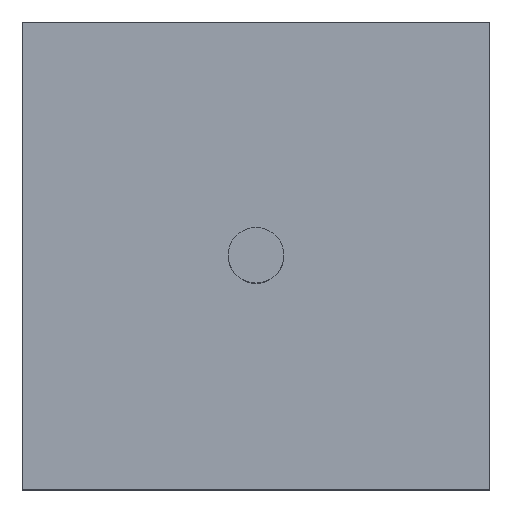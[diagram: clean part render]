
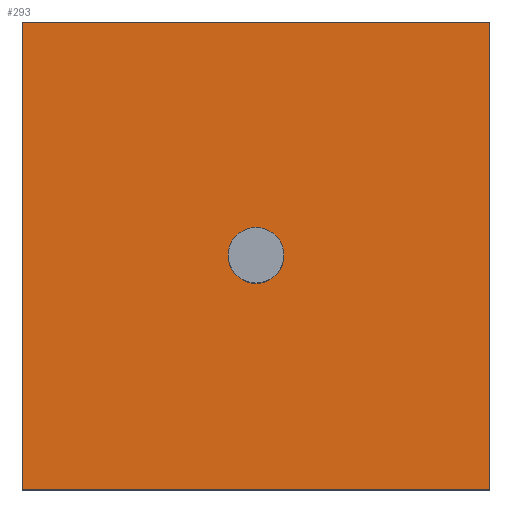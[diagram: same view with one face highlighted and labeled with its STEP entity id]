
A CAD part, top view. The second image highlights one B-rep face of the part: STEP entity #293.
In plain terms, the highlighted planar face has unit normal (0, 0, 1).
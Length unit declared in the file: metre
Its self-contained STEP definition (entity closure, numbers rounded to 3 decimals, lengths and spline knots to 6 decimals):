
#5 = ORIENTED_EDGE ( 'NONE', *, *, #77, .F. ) ;
#9 = CARTESIAN_POINT ( 'NONE',  ( -0.0025, 0., 0. ) ) ;
#10 = VECTOR ( 'NONE', #56, 1. ) ;
#11 = CARTESIAN_POINT ( 'NONE',  ( 0.021, -0.021, 0. ) ) ;
#12 = CARTESIAN_POINT ( 'NONE',  ( -0.021, 0.021, 0. ) ) ;
#13 = PLANE ( 'NONE',  #283 ) ;
#14 = ORIENTED_EDGE ( 'NONE', *, *, #92, .T. ) ;
#16 = EDGE_CURVE ( 'NONE', #290, #299, #206, .T. ) ;
#28 = VECTOR ( 'NONE', #89, 1. ) ;
#38 = VERTEX_POINT ( 'NONE', #124 ) ;
#52 = ORIENTED_EDGE ( 'NONE', *, *, #16, .T. ) ;
#53 = DIRECTION ( 'NONE',  ( 1., 0., 0. ) ) ;
#54 = CARTESIAN_POINT ( 'NONE',  ( 0., 0., 0. ) ) ;
#56 = DIRECTION ( 'NONE',  ( 0., 1., 0. ) ) ;
#57 = DIRECTION ( 'NONE',  ( 0., 0., 1. ) ) ;
#73 = ORIENTED_EDGE ( 'NONE', *, *, #136, .F. ) ;
#77 = EDGE_CURVE ( 'NONE', #187, #171, #99, .T. ) ;
#78 = DIRECTION ( 'NONE',  ( 1., 0., 0. ) ) ;
#85 = VECTOR ( 'NONE', #78, 1. ) ;
#89 = DIRECTION ( 'NONE',  ( -1., 0., 0. ) ) ;
#92 = EDGE_CURVE ( 'NONE', #241, #38, #258, .T. ) ;
#99 = CIRCLE ( 'NONE', #120, 0.0025 ) ;
#101 = LINE ( 'NONE', #204, #85 ) ;
#105 = CARTESIAN_POINT ( 'NONE',  ( 0., 0., 0. ) ) ;
#107 = FACE_OUTER_BOUND ( 'NONE', #169, .T. ) ;
#108 = EDGE_CURVE ( 'NONE', #299, #241, #101, .T. ) ;
#111 = LINE ( 'NONE', #214, #28 ) ;
#120 = AXIS2_PLACEMENT_3D ( 'NONE', #54, #232, #261 ) ;
#124 = CARTESIAN_POINT ( 'NONE',  ( 0.021, 0.021, 0. ) ) ;
#128 = CARTESIAN_POINT ( 'NONE',  ( 0.021, -0.021, 0. ) ) ;
#130 = AXIS2_PLACEMENT_3D ( 'NONE', #105, #57, #53 ) ;
#136 = EDGE_CURVE ( 'NONE', #171, #187, #164, .T. ) ;
#144 = EDGE_LOOP ( 'NONE', ( #73, #5 ) ) ;
#154 = VECTOR ( 'NONE', #303, 1. ) ;
#158 = CARTESIAN_POINT ( 'NONE',  ( -0.021, -0.021, 0. ) ) ;
#164 = CIRCLE ( 'NONE', #130, 0.0025 ) ;
#169 = EDGE_LOOP ( 'NONE', ( #14, #302, #52, #219 ) ) ;
#171 = VERTEX_POINT ( 'NONE', #9 ) ;
#187 = VERTEX_POINT ( 'NONE', #208 ) ;
#204 = CARTESIAN_POINT ( 'NONE',  ( -0.021, -0.021, 0. ) ) ;
#206 = LINE ( 'NONE', #308, #154 ) ;
#208 = CARTESIAN_POINT ( 'NONE',  ( 0.0025, 0., 0. ) ) ;
#211 = DIRECTION ( 'NONE',  ( -1., 0., 0. ) ) ;
#214 = CARTESIAN_POINT ( 'NONE',  ( -0.021, 0.021, 0. ) ) ;
#219 = ORIENTED_EDGE ( 'NONE', *, *, #108, .T. ) ;
#232 = DIRECTION ( 'NONE',  ( 0., 0., 1. ) ) ;
#241 = VERTEX_POINT ( 'NONE', #128 ) ;
#258 = LINE ( 'NONE', #11, #10 ) ;
#261 = DIRECTION ( 'NONE',  ( 1., 0., 0. ) ) ;
#264 = DIRECTION ( 'NONE',  ( 0., 0., -1. ) ) ;
#269 = CARTESIAN_POINT ( 'NONE',  ( 0., 0., 0. ) ) ;
#283 = AXIS2_PLACEMENT_3D ( 'NONE', #269, #264, #211 ) ;
#290 = VERTEX_POINT ( 'NONE', #12 ) ;
#293 = ADVANCED_FACE ( 'NONE', ( #317, #107 ), #13, .F. ) ;
#299 = VERTEX_POINT ( 'NONE', #158 ) ;
#302 = ORIENTED_EDGE ( 'NONE', *, *, #313, .T. ) ;
#303 = DIRECTION ( 'NONE',  ( 0., -1., 0. ) ) ;
#308 = CARTESIAN_POINT ( 'NONE',  ( -0.021, -0.021, 0. ) ) ;
#313 = EDGE_CURVE ( 'NONE', #38, #290, #111, .T. ) ;
#317 = FACE_BOUND ( 'NONE', #144, .T. ) ;
